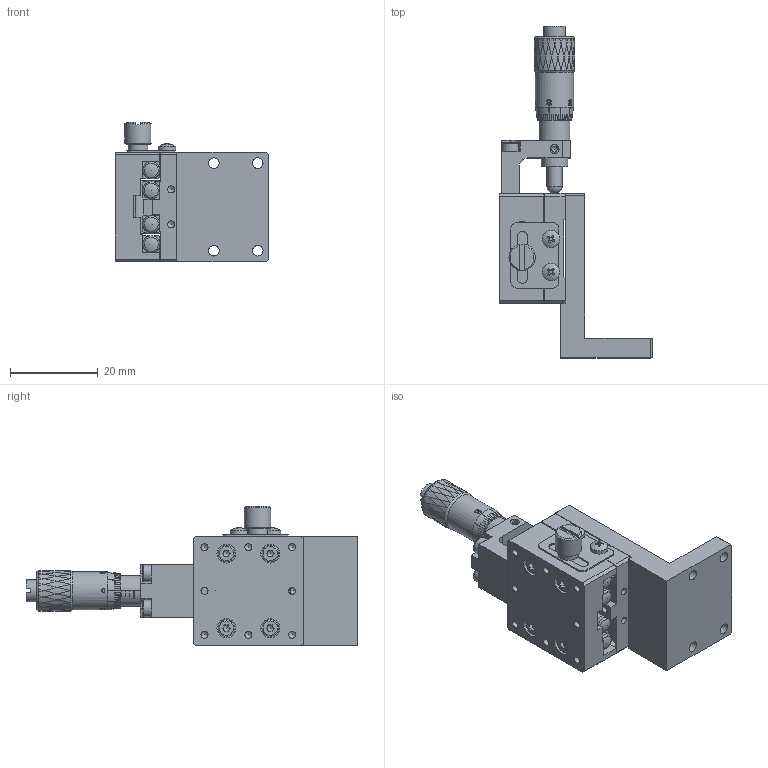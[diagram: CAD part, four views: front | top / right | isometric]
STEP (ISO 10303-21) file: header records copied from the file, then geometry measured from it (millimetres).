
FILE_DESCRIPTION (( 'STEP AP203' ), '1' );
FILE_NAME ('BVZ25.STEP', '2024-07-23T08:03:06', ( 'Windows User' ), ( 'P R C' ), 'SwSTEP 2.0', 'SolidWorks 2024', '' );
FILE_SCHEMA (( 'CONFIG_CONTROL_DESIGN' ));
Length unit declared in the file: millimetre
Products named in the file (1): BVZ25
Bounding box: 35 x 75.7 x 31.8 mm (x, y, z)
Volume: 16498 mm3; surface area: 15337.6 mm2
Topology: 27 solids, 27 shells, 1169 faces, 2781 edges, 1772 vertices
Faces by surface type: plane 459, bspline 295, cylinder 249, cone 135, torus 29, sphere 2
Full cylindrical faces by diameter (mm): 1.6 x29, 1.65 x8, 2 x15, 2.05 x1, 2.4 x16, 2.5 x5, 3 x8, 3.5 x2, 3.8 x12, 3.9 x8, 4 x6, 4.3 x8, 4.5 x1, 5 x2, 6 x3, 7 x2, 8.7 x1
Entity records: 45497 total; most frequent: CARTESIAN_POINT 22382, ORIENTED_EDGE 4976, DIRECTION 3691, EDGE_CURVE 2488, VERTEX_POINT 1703, EDGE_LOOP 1585, AXIS2_PLACEMENT_3D 1427, FACE_OUTER_BOUND 1319
